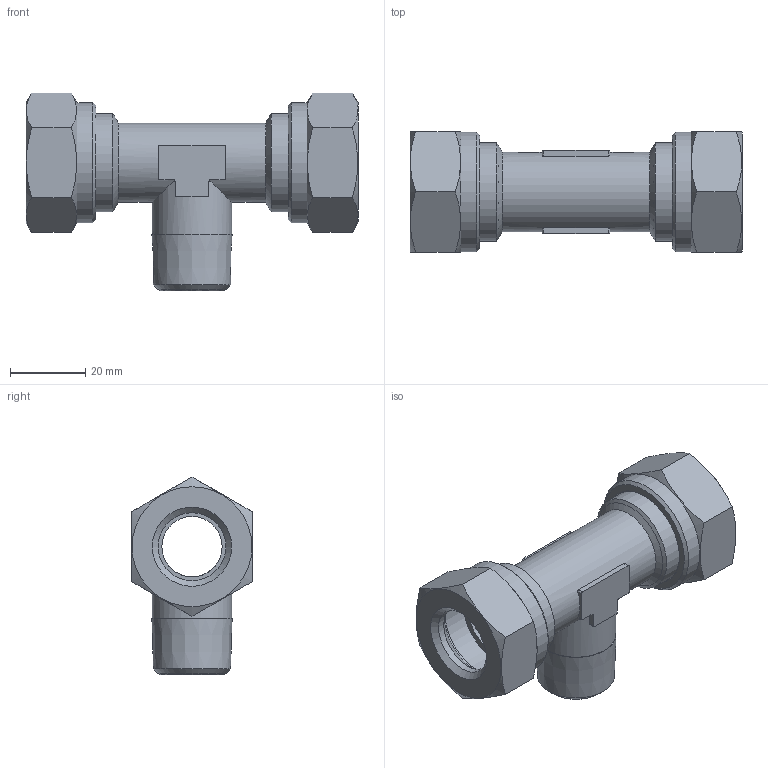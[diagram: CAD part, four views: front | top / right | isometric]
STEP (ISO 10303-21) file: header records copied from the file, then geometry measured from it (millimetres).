
FILE_DESCRIPTION(('Bauteilbeschreibung','HiCAD-Model','HiCAD-STEP-TRANSLATION','Bauteilbeschreibung'),'2;1');
FILE_NAME('B:/ABGLEICH/ZEICHNUNGEN/STEP FÜR INTERNET/STEP/207/92214_207_8_1-2.STP','2011-10-20T11:27:24+00:00',('Konstrukteur'),('Konstrukteur Firma GmbH'),' HiCAD neXt 2008, Step 3.1.1401.2J ','HiCAD neXt 2008','confidential');
FILE_SCHEMA(('AUTOMOTIVE_DESIGN { 1 2 10303 214 0 1 1 1 }'));
Length unit declared in the file: millimetre
Products named in the file (12): A2214_207_8_1_2; A2214; A22140; R 1_2; DIN 13_M26X1_5; DIN0130M26X105; A6809; A68090; DIN0130M26X1050; A68091; A68092; DIN0130M26X1051
Assembly tree (11 placements, depth 3):
  A2214_207_8_1_2
    A2214
    A22140
      R 1_2
      DIN 13_M26X1_5
      DIN0130M26X105
    A6809
    A68090
      DIN0130M26X1050
    A68091
    A68092
      DIN0130M26X1051
Bounding box: 88 x 32 x 52.48 mm (x, y, z)
Volume: 31767.6 mm3; surface area: 28071.5 mm2
Topology: 8 solids, 8 shells, 115 faces, 279 edges, 178 vertices
Faces by surface type: plane 45, cylinder 40, cone 30
Full cylindrical faces by diameter (mm): 15 x1, 16 x1, 18 x4, 21 x2, 24.16 x8, 26 x6, 31.8 x2
Entity records: 7539 total; most frequent: CARTESIAN_POINT 3953, DIRECTION 524, ORIENTED_EDGE 410, AXIS2_PLACEMENT_3D 227, EDGE_CURVE 205, COLOUR_RGB 192, PRESENTATION_STYLE_ASSIGNMENT 192, EDGE_LOOP 186
